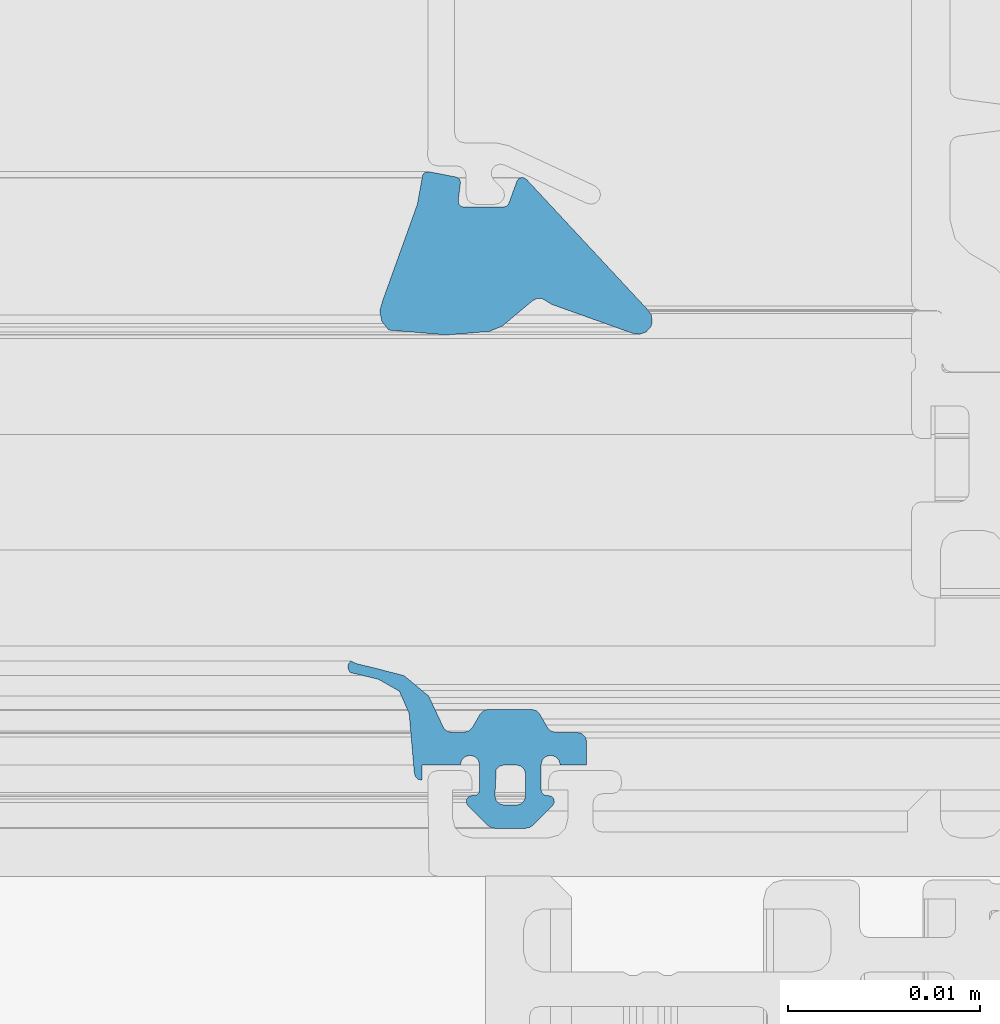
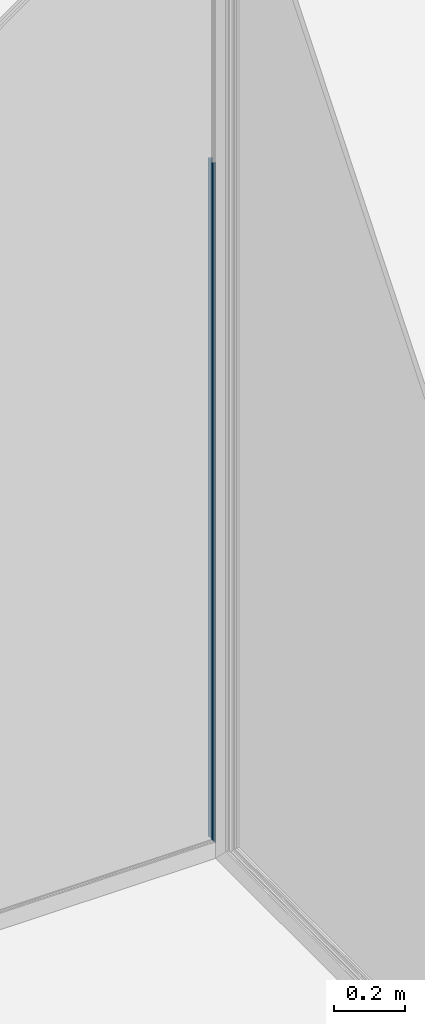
# One storey, part 28 of 69: 1 building element part, 2 elements without a shape of their own.
"""IFC2X3 building model written with IfcOpenShell, lengths in millimetres."""

from ifc_helpers import new_model, entity, si_unit, converted_unit, derived_unit, money_unit, direction, frame, origin_with_axes, place, context, subcontext, project, spatial, faceted_brep, material, type_object, element, aggregate, save


model = new_model("IFC2X3")

# Units and contexts
model_context = context("Model", 3, precision=0.01, world=origin_with_axes(), true_north=direction((0.0, 1.0)))
body_context = subcontext(model_context, "Body", "Model", "MODEL_VIEW")
ifc_project = project(units=[si_unit("LENGTHUNIT", "METRE", prefix="MILLI"), si_unit("AREAUNIT", "SQUARE_METRE"), si_unit("VOLUMEUNIT", "CUBIC_METRE"), converted_unit("PLANEANGLEUNIT", "DEGREE", entity("IfcPlaneAngleMeasure", 0.0174532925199), si_unit("PLANEANGLEUNIT", "RADIAN"), dimensions=[0, 0, 0, 0, 0, 0, 0]), si_unit("SOLIDANGLEUNIT", "STERADIAN"), money_unit("EUR"), converted_unit("TIMEUNIT", "Year", entity("IfcTimeMeasure", 31556926.0), si_unit("TIMEUNIT", "SECOND"), dimensions=[0, 0, 1, 0, 0, 0, 0]), si_unit("MASSUNIT", "GRAM", prefix="KILO"), si_unit("THERMODYNAMICTEMPERATUREUNIT", "DEGREE_CELSIUS"), si_unit("LUMINOUSINTENSITYUNIT", "LUMEN"), si_unit("ENERGYUNIT", "JOULE", prefix="MEGA"), derived_unit("THERMALCONDUCTANCEUNIT", [(si_unit("POWERUNIT", "WATT"), 1), (si_unit("LENGTHUNIT", "METRE"), -1), (si_unit("THERMODYNAMICTEMPERATUREUNIT", "KELVIN"), -1)]), derived_unit("SPECIFICHEATCAPACITYUNIT", [(si_unit("ENERGYUNIT", "JOULE"), 1), (si_unit("MASSUNIT", "GRAM", prefix="KILO"), -1), (si_unit("THERMODYNAMICTEMPERATUREUNIT", "KELVIN"), -1)]), derived_unit("MASSDENSITYUNIT", [(si_unit("MASSUNIT", "GRAM", prefix="KILO"), 1), (si_unit("VOLUMEUNIT", "CUBIC_METRE"), -1)])], contexts=[model_context])

# Site, building, storey
site_placement = place(None, origin_with_axes())
site = spatial("IfcSite", under=ifc_project, at=site_placement, Name="Puškini 31, Narva", CompositionType="ELEMENT")
building_placement = place(site_placement, origin_with_axes())
building = spatial("IfcBuilding", under=site, at=building_placement, Name="Narva Riigigümnaasium", CompositionType="ELEMENT")
storey_placement = place(building_placement, origin_with_axes())
storey = spatial("IfcBuildingStorey", under=building, at=storey_placement, Name="1.korrus 0.00", CompositionType="ELEMENT", Elevation=0.0)

# Curtain wall, member, building element part
curtain_wall_type = type_object("IfcCurtainWallType", Name="Curtain Wall Type", PredefinedType="NOTDEFINED")
curtain_wall_placement = place(storey_placement, frame((18229.9603698, 152620.000001, -0.397158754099), z_axis=(0.0, 0.0, 1.0), x_axis=(1.0, 0.0, 0.0)))
curtain_wall = element("IfcCurtainWall", 1, at=curtain_wall_placement, inside=storey, type_object=curtain_wall_type, Name="G-KLF-01-1")
member_type = type_object("IfcMemberType", Name="61 x 45", PredefinedType="MULLION")
member_placement = place(curtain_wall_placement, frame((4064.40686752, 0.0, 0.0), z_axis=(0.0, 0.0, 1.0), x_axis=(1.0, 0.0, 0.0)))
member = element("IfcMember", 2, at=member_placement, type_object=member_type, Name="G-SKLF-03-raam", ObjectType="MULLION")
aggregate(curtain_wall, [member])
ifc_material = material(Name="Membraan - Veekindel")
building_element_part_placement = place(member_placement, origin_with_axes())
building_element_part = element("IfcBuildingElementPart", 3, at=building_element_part_placement, material=ifc_material, Name="Membraan - Veekindel", context=body_context, shape_type="Brep", body=[
    faceted_brep([(-59.5800222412, -34.73794757, 59.5800222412), (-59.5800222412, -34.73794757, 2400.00003439), (-61.0413385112, -34.3890442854, 2400.00003439), (-61.0413385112, -34.3890442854, 61.0413385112), (-58.4755028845, -35.3628499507, 58.4755028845), (-58.4755028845, -35.3628499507, 2400.00003439), (-57.9693613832, -36.5265882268, 2400.00003439), (-57.7000324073, -39.5999584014, 2400.00003439), (-57.6464370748, -39.7999717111, 2400.00003439), (-57.5000161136, -39.9463912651, 2400.00003439), (-57.3000022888, -39.9999846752, 2400.00003439), (-57.3000022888, -39.1999494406, 2400.00003439), (-55.3000210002, -39.1999606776, 2400.00003439), (-55.2330337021, -38.9499606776, 2400.00003439), (-55.0500210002, -38.7669479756, 2400.00003439), (-54.8000210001, -38.6999606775, 2400.00003439), (-54.5500210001, -38.7669479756, 2400.00003439), (-54.3670082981, -38.9499606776, 2400.00003439), (-54.300021, -39.1999606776, 2400.00003439), (-54.300021, -40.4999366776, 2400.00003439), (-54.3402133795, -40.6499366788, 2400.00003439), (-54.4500210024, -40.7597443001, 2400.00003439), (-54.6000210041, -40.7999366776, 2400.00003439), (-54.7000173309, -40.7999366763, 2400.00003439), (-54.866675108, -40.850483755, 2400.00003439), (-54.9771753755, -40.9850924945, 2400.00003439), (-54.9942836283, -41.1584047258, 2400.00003439), (-54.9122350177, -41.3120206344, 2400.00003439), (-53.8716106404, -42.3533776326, 2400.00003439), (-53.7093558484, -42.4618547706, 2400.00003439), (-53.517932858, -42.4999486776, 2400.00003439), (-51.8818844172, -42.4999486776, 2400.00003439), (-51.6904310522, -42.4618421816, 2400.00003439), (-51.5281601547, -42.3533311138, 2400.00003439), (-50.4878083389, -41.3119729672, 2400.00003439), (-50.4057850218, -41.1583618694, 2400.00003439), (-50.4229059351, -40.9850671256, 2400.00003439), (-50.5334025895, -40.8504763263, 2400.00003439), (-50.7000457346, -40.7999366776, 2400.00003439), (-50.80004, -40.7999366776, 2400.00003439), (-50.95004, -40.7597442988, 2400.00003439), (-51.0598476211, -40.6499366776, 2400.00003439), (-51.10004, -40.4999366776, 2400.00003439), (-51.10004, -39.1999550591, 2400.00003439), (-51.0330541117, -38.9499546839, 2400.00003439), (-50.8500424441, -38.7669409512, 2400.00003439), (-50.6000428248, -38.699952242, 2400.00003439), (-50.3500424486, -38.7669381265, 2400.00003439), (-50.1670287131, -38.9499497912, 2400.00003439), (-50.10004, -39.1999494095, 2400.00003439), (-48.7206527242, -39.1999494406, 2400.00003439), (-48.7206527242, -38.0023809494, 2400.00003439), (-48.7876400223, -37.7523809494, 2400.00003439), (-48.9706527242, -37.5693682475, 2400.00003439), (-49.2206527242, -37.5023809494, 2400.00003439), (-50.3319753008, -37.5023809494, 2400.00003439), (-50.5819753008, -37.4353936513, 2400.00003439), (-50.7649880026, -37.2523809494, 2400.00003439), (-51.1691331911, -36.5523809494, 2400.00003439), (-51.352145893, -36.3693682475, 2400.00003439), (-51.602145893, -36.3023809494, 2400.00003439), (-53.8391557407, -36.3023809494, 2400.00003439), (-54.0891557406, -36.3693682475, 2400.00003439), (-54.2721684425, -36.5523809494, 2400.00003439), (-54.676313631, -37.2523809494, 2400.00003439), (-54.8593263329, -37.4353936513, 2400.00003439), (-55.1093263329, -37.5023809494, 2400.00003439), (-55.7607444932, -37.5023809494, 2400.00003439), (-55.9795989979, -37.4519392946, 2400.00003439), (-56.1542959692, -37.3107917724, 2400.00003439), (-56.2495873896, -37.1074172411, 2400.00003439), (-56.9567944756, -35.6067920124, 2400.00003439), (-58.2346494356, -34.5489145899, 2400.00003439), (-59.8409257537, -34.1343131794, 2400.00003439), (-60.7381535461, -33.9217644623, 2400.00003439), (-61.0108941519, -33.784859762, 2400.00003439), (-61.1423164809, -33.9681748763, 2400.00003439), (-61.1536677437, -34.1934467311, 2400.00003439), (-53.5000340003, -40.7999553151, 2400.00003439), (-53.433048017, -39.44993177, 2400.00003439), (-53.2500389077, -39.2669226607, 2400.00003439), (-53.0000438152, -39.1999366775, 2400.00003439), (-52.4000171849, -39.1999366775, 2400.00003439), (-52.1500220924, -39.2669226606, 2400.00003439), (-51.9670129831, -39.4499317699, 2400.00003439), (-51.9000269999, -39.6999268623, 2400.00003439), (-51.9000269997, -40.799955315, 2400.00003439), (-51.9670118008, -41.0499459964, 2400.00003439), (-52.150017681, -41.2329518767, 2400.00003439), (-52.4000083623, -41.299936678, 2400.00003439), (-53.0000526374, -41.299936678, 2400.00003439), (-53.2500433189, -41.2329518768, 2400.00003439), (-53.4330491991, -41.0499459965, 2400.00003439), (-61.1536677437, -34.1934467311, 61.1536677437), (-61.1423164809, -33.9681748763, 61.1423164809), (-61.0108941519, -33.784859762, 61.0108941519), (-60.7381535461, -33.9217644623, 60.7381535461), (-59.8409257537, -34.1343131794, 59.8409257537), (-58.2346494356, -34.5489145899, 58.2346494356), (-56.9567944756, -35.6067920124, 56.9567944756), (-56.2495873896, -37.1074172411, 56.2495873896), (-56.1542959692, -37.3107917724, 56.1542959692), (-55.9795989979, -37.4519392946, 55.9795989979), (-55.7607444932, -37.5023809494, 55.7607444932), (-55.1093263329, -37.5023809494, 55.1093263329), (-54.8593263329, -37.4353936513, 54.8593263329), (-54.676313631, -37.2523809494, 54.676313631), (-54.2721684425, -36.5523809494, 54.2721684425), (-54.0891557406, -36.3693682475, 54.0891557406), (-53.8391557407, -36.3023809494, 53.8391557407), (-51.602145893, -36.3023809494, 51.602145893), (-51.352145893, -36.3693682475, 51.352145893), (-51.1691331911, -36.5523809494, 51.1691331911), (-50.7649880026, -37.2523809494, 50.7649880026), (-50.5819753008, -37.4353936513, 50.5819753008), (-50.3319753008, -37.5023809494, 50.3319753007), (-49.2206527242, -37.5023809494, 49.2206527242), (-48.9706527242, -37.5693682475, 48.9706527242), (-48.7876400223, -37.7523809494, 48.7876400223), (-48.7206527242, -38.0023809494, 48.7206527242), (-48.7206527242, -39.1999494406, 48.7206527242), (-50.10004, -39.1999494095, 50.10004), (-50.1670287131, -38.9499497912, 50.1670287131), (-50.3500424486, -38.7669381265, 50.3500424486), (-50.6000428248, -38.699952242, 50.6000428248), (-50.8500424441, -38.7669409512, 50.8500424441), (-51.0330541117, -38.9499546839, 51.0330541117), (-51.10004, -39.1999550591, 51.10004), (-51.10004, -40.4999366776, 51.10004), (-51.0598476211, -40.6499366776, 51.0598476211), (-50.95004, -40.7597442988, 50.95004), (-50.80004, -40.7999366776, 50.80004), (-50.7000457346, -40.7999366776, 50.7000457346), (-50.5334025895, -40.8504763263, 50.5334025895), (-50.4229059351, -40.9850671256, 50.4229059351), (-50.4057850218, -41.1583618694, 50.4057850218), (-50.4878083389, -41.3119729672, 50.4878083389), (-51.5281601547, -42.3533311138, 51.5281601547), (-51.6904310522, -42.4618421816, 51.6904310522), (-51.8818844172, -42.4999486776, 51.8818844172), (-53.517932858, -42.4999486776, 53.517932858), (-53.7093558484, -42.4618547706, 53.7093558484), (-53.8716106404, -42.3533776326, 53.8716106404), (-54.9122350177, -41.3120206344, 54.9122350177), (-54.9942836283, -41.1584047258, 54.9942836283), (-54.9771753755, -40.9850924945, 54.9771753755), (-54.866675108, -40.850483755, 54.866675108), (-54.7000173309, -40.7999366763, 54.7000173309), (-54.6000210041, -40.7999366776, 54.6000210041), (-54.4500210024, -40.7597443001, 54.4500210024), (-54.3402133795, -40.6499366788, 54.3402133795), (-54.300021, -40.4999366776, 54.300021), (-54.300021, -39.1999606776, 54.300021), (-54.3670082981, -38.9499606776, 54.3670082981), (-54.5500210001, -38.7669479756, 54.5500210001), (-54.8000210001, -38.6999606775, 54.8000210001), (-55.0500210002, -38.7669479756, 55.0500210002), (-55.2330337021, -38.9499606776, 55.2330337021), (-55.3000210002, -39.1999606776, 55.3000210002), (-57.3000022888, -39.1999494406, 57.3000022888), (-57.3000022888, -39.9999846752, 57.3000022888), (-57.5000161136, -39.9463912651, 57.5000161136), (-57.6464370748, -39.7999717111, 57.6464370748), (-57.7000324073, -39.5999584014, 57.7000324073), (-57.9693613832, -36.5265882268, 57.9693613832), (-53.5000340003, -40.7999553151, 53.5000340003), (-53.4330491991, -41.0499459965, 53.4330491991), (-53.2500433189, -41.2329518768, 53.2500433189), (-53.0000526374, -41.299936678, 53.0000526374), (-52.4000083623, -41.299936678, 52.4000083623), (-52.150017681, -41.2329518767, 52.150017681), (-51.9670118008, -41.0499459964, 51.9670118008), (-51.9000269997, -40.799955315, 51.9000269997), (-51.9000269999, -39.6999268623, 51.9000269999), (-51.9670129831, -39.4499317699, 51.9670129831), (-52.1500220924, -39.2669226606, 52.1500220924), (-52.4000171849, -39.1999366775, 52.4000171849), (-53.0000438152, -39.1999366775, 53.0000438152), (-53.2500389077, -39.2669226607, 53.2500389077), (-53.433048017, -39.44993177, 53.433048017)], [[[0, 1, 2, 3]], [[4, 5, 1, 0]], [[2, 1, 5, 6, 7, 8, 9, 10, 11, 12, 13, 14, 15, 16, 17, 18, 19, 20, 21, 22, 23, 24, 25, 26, 27, 28, 29, 30, 31, 32, 33, 34, 35, 36, 37, 38, 39, 40, 41, 42, 43, 44, 45, 46, 47, 48, 49, 50, 51, 52, 53, 54, 55, 56, 57, 58, 59, 60, 61, 62, 63, 64, 65, 66, 67, 68, 69, 70, 71, 72, 73, 74, 75, 76, 77], [78, 79, 80, 81, 82, 83, 84, 85, 86, 87, 88, 89, 90, 91, 92]], [[3, 2, 77, 93]], [[3, 93, 94, 95, 96, 97, 98, 99, 100, 101, 102, 103, 104, 105, 106, 107, 108, 109, 110, 111, 112, 113, 114, 115, 116, 117, 118, 119, 120, 121, 122, 123, 124, 125, 126, 127, 128, 129, 130, 131, 132, 133, 134, 135, 136, 137, 138, 139, 140, 141, 142, 143, 144, 145, 146, 147, 148, 149, 150, 151, 152, 153, 154, 155, 156, 157, 158, 159, 160, 161, 162, 163, 164, 4, 0], [165, 166, 167, 168, 169, 170, 171, 172, 173, 174, 175, 176, 177, 178, 179]], [[164, 6, 5, 4]], [[163, 7, 6, 164]], [[162, 8, 7, 163]], [[161, 9, 8, 162]], [[160, 10, 9, 161]], [[159, 11, 10, 160]], [[158, 12, 11, 159]], [[157, 13, 12, 158]], [[156, 14, 13, 157]], [[155, 15, 14, 156]], [[154, 16, 15, 155]], [[153, 17, 16, 154]], [[152, 18, 17, 153]], [[151, 19, 18, 152]], [[150, 20, 19, 151]], [[149, 21, 20, 150]], [[148, 22, 21, 149]], [[147, 23, 22, 148]], [[146, 24, 23, 147]], [[145, 25, 24, 146]], [[144, 26, 25, 145]], [[143, 27, 26, 144]], [[142, 28, 27, 143]], [[141, 29, 28, 142]], [[140, 30, 29, 141]], [[139, 31, 30, 140]], [[138, 32, 31, 139]], [[137, 33, 32, 138]], [[136, 34, 33, 137]], [[135, 35, 34, 136]], [[134, 36, 35, 135]], [[133, 37, 36, 134]], [[132, 38, 37, 133]], [[131, 39, 38, 132]], [[130, 40, 39, 131]], [[129, 41, 40, 130]], [[128, 42, 41, 129]], [[127, 43, 42, 128]], [[126, 44, 43, 127]], [[125, 45, 44, 126]], [[124, 46, 45, 125]], [[123, 47, 46, 124]], [[122, 48, 47, 123]], [[121, 49, 48, 122]], [[120, 50, 49, 121]], [[119, 51, 50, 120]], [[118, 52, 51, 119]], [[117, 53, 52, 118]], [[116, 54, 53, 117]], [[115, 55, 54, 116]], [[114, 56, 55, 115]], [[113, 57, 56, 114]], [[112, 58, 57, 113]], [[111, 59, 58, 112]], [[110, 60, 59, 111]], [[109, 61, 60, 110]], [[108, 62, 61, 109]], [[107, 63, 62, 108]], [[106, 64, 63, 107]], [[105, 65, 64, 106]], [[104, 66, 65, 105]], [[103, 67, 66, 104]], [[102, 68, 67, 103]], [[101, 69, 68, 102]], [[100, 70, 69, 101]], [[99, 71, 70, 100]], [[98, 72, 71, 99]], [[97, 73, 72, 98]], [[96, 74, 73, 97]], [[95, 75, 74, 96]], [[94, 76, 75, 95]], [[93, 77, 76, 94]], [[179, 79, 78, 165]], [[178, 80, 79, 179]], [[177, 81, 80, 178]], [[176, 82, 81, 177]], [[175, 83, 82, 176]], [[174, 84, 83, 175]], [[173, 85, 84, 174]], [[172, 86, 85, 173]], [[171, 87, 86, 172]], [[170, 88, 87, 171]], [[169, 89, 88, 170]], [[168, 90, 89, 169]], [[167, 91, 90, 168]], [[166, 92, 91, 167]], [[165, 78, 92, 166]]]),
    faceted_brep([(-55.9926715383, -16.8063498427, 55.9926715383), (-55.9926715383, -16.8063498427, 2400.00003439), (-59.0307115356, -16.554149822, 2400.00003439), (-59.0307115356, -16.554149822, 59.0307115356), (-53.7899070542, -16.6230039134, 53.7899070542), (-53.7899070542, -16.6230039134, 2400.00003439), (-53.1225200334, -16.3483062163, 2400.00003439), (-51.5205025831, -15.0099586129, 2400.00003439), (-51.3011765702, -14.8998814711, 2400.00003439), (-51.0558924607, -14.9074036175, 2400.00003439), (-50.8437237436, -15.0307134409, 2400.00003439), (-50.5536994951, -15.2121179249, 2400.00003439), (-46.298307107, -16.7340705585, 2400.00003439), (-45.950966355, -16.7718696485, 2400.00003439), (-45.6241929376, -16.6482027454, 2400.00003439), (-45.3889077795, -16.3899097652, 2400.00003439), (-45.3195226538, -16.2152275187, 2400.00003439), (-45.3418968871, -15.7688623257, 2400.00003439), (-45.6142070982, -15.4144760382, 2400.00003439), (-51.8169217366, -8.74599822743, 2400.00003439), (-51.938943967, -8.6326446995, 2400.00003439), (-52.1026310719, -8.60190419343, 2400.00003439), (-52.2574645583, -8.66326410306, 2400.00003439), (-52.3556584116, -8.79778701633, 2400.00003439), (-52.7761212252, -9.95299910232, 2400.00003439), (-52.8859560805, -10.0961386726, 2400.00003439), (-53.0580290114, -10.1503930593, 2400.00003439), (-55.1123574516, -10.1503930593, 2400.00003439), (-55.2731258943, -10.1036784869, 2400.00003439), (-55.3838261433, -9.97808311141, 2400.00003439), (-55.4099827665, -9.81272116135, 2400.00003439), (-55.2940485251, -8.85237785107, 2400.00003439), (-55.3307332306, -8.7275382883, 2400.00003439), (-55.4168250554, -8.6299735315, 2400.00003439), (-55.5361285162, -8.57803733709, 2400.00003439), (-56.9361285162, -8.30590490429, 2400.00003439), (-57.0661058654, -8.3093438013, 2400.00003439), (-57.1824204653, -8.36745448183, 2400.00003439), (-57.2632233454, -8.46932121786, 2400.00003439), (-57.5418652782, -10.0035930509, 2400.00003439), (-59.3405112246, -15.0012955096, 2400.00003439), (-59.5001582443, -15.5494067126, 2400.00003439), (-59.3884652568, -16.1092618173, 2400.00003439), (-59.3884652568, -16.1092618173, 59.3884652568), (-59.5001582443, -15.5494067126, 59.5001582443), (-59.3405112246, -15.0012955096, 59.3405112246), (-57.5418652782, -10.0035930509, 57.5418652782), (-57.2632233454, -8.46932121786, 57.2632233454), (-57.1824204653, -8.36745448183, 57.1824204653), (-57.0661058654, -8.3093438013, 57.0661058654), (-56.9361285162, -8.30590490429, 56.9361285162), (-55.5361285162, -8.57803733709, 55.5361285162), (-55.4168250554, -8.6299735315, 55.4168250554), (-55.3307332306, -8.7275382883, 55.3307332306), (-55.2940485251, -8.85237785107, 55.2940485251), (-55.4099827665, -9.81272116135, 55.4099827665), (-55.3838261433, -9.97808311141, 55.3838261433), (-55.2731258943, -10.1036784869, 55.2731258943), (-55.1123574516, -10.1503930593, 55.1123574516), (-53.0580290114, -10.1503930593, 53.0580290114), (-52.8859560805, -10.0961386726, 52.8859560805), (-52.7761212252, -9.95299910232, 52.7761212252), (-52.3556584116, -8.79778701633, 52.3556584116), (-52.2574645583, -8.66326410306, 52.2574645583), (-52.1026310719, -8.60190419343, 52.1026310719), (-51.938943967, -8.6326446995, 51.938943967), (-51.8169217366, -8.74599822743, 51.8169217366), (-45.6142070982, -15.4144760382, 45.6142070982), (-45.3418968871, -15.7688623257, 45.3418968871), (-45.3195226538, -16.2152275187, 45.3195226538), (-45.3889077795, -16.3899097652, 45.3889077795), (-45.6241929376, -16.6482027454, 45.6241929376), (-45.950966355, -16.7718696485, 45.950966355), (-46.298307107, -16.7340705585, 46.298307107), (-50.5536994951, -15.2121179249, 50.5536994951), (-50.8437237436, -15.0307134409, 50.8437237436), (-51.0558924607, -14.9074036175, 51.0558924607), (-51.3011765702, -14.8998814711, 51.3011765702), (-51.5205025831, -15.0099586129, 51.5205025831), (-53.1225200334, -16.3483062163, 53.1225200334)], [[[0, 1, 2, 3]], [[4, 5, 1, 0]], [[2, 1, 5, 6, 7, 8, 9, 10, 11, 12, 13, 14, 15, 16, 17, 18, 19, 20, 21, 22, 23, 24, 25, 26, 27, 28, 29, 30, 31, 32, 33, 34, 35, 36, 37, 38, 39, 40, 41, 42]], [[3, 2, 42, 43]], [[3, 43, 44, 45, 46, 47, 48, 49, 50, 51, 52, 53, 54, 55, 56, 57, 58, 59, 60, 61, 62, 63, 64, 65, 66, 67, 68, 69, 70, 71, 72, 73, 74, 75, 76, 77, 78, 79, 4, 0]], [[79, 6, 5, 4]], [[78, 7, 6, 79]], [[77, 8, 7, 78]], [[76, 9, 8, 77]], [[75, 10, 9, 76]], [[74, 11, 10, 75]], [[73, 12, 11, 74]], [[72, 13, 12, 73]], [[71, 14, 13, 72]], [[70, 15, 14, 71]], [[69, 16, 15, 70]], [[68, 17, 16, 69]], [[67, 18, 17, 68]], [[66, 19, 18, 67]], [[65, 20, 19, 66]], [[64, 21, 20, 65]], [[63, 22, 21, 64]], [[62, 23, 22, 63]], [[61, 24, 23, 62]], [[60, 25, 24, 61]], [[59, 26, 25, 60]], [[58, 27, 26, 59]], [[57, 28, 27, 58]], [[56, 29, 28, 57]], [[55, 30, 29, 56]], [[54, 31, 30, 55]], [[53, 32, 31, 54]], [[52, 33, 32, 53]], [[51, 34, 33, 52]], [[50, 35, 34, 51]], [[49, 36, 35, 50]], [[48, 37, 36, 49]], [[47, 38, 37, 48]], [[46, 39, 38, 47]], [[45, 40, 39, 46]], [[44, 41, 40, 45]], [[43, 42, 41, 44]]]),
])
aggregate(member, [building_element_part])

save(model, "model.ifc")
